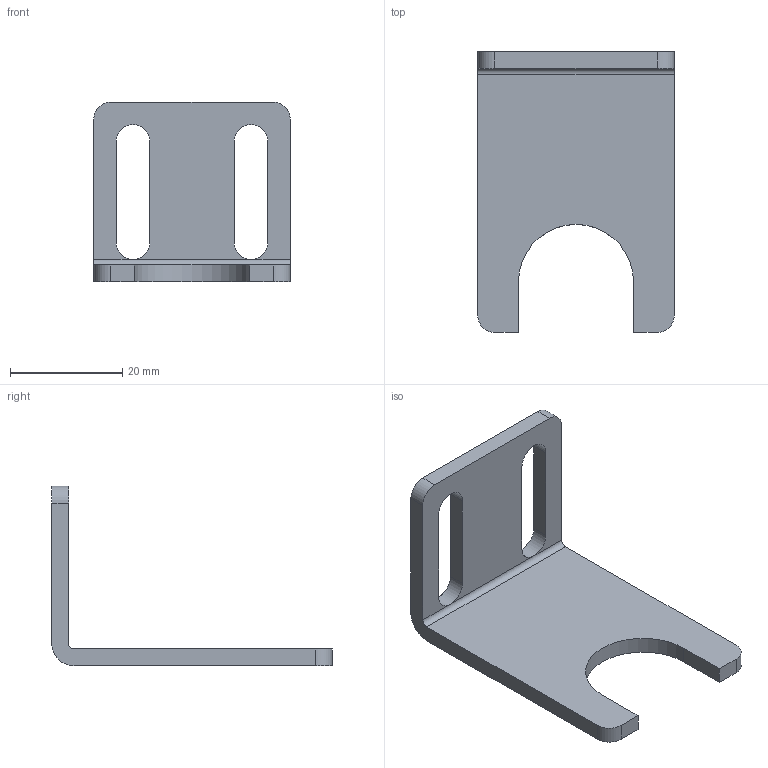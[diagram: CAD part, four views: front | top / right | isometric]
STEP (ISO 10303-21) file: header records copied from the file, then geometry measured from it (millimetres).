
FILE_DESCRIPTION((''),'2;1');
FILE_NAME('K:\ZEICHNG\webgrafik.intern\step\Air-Techniques\WH.M 20.stp','2013-06-17T14:11:31',('RJanz'),(''),'Autodesk Inventor 2013','Autodesk Inventor 2013','');
FILE_SCHEMA(('CONFIG_CONTROL_DESIGN'));
Length unit declared in the file: millimetre
Products named in the file (1): 10000729
Bounding box: 35 x 50 x 32 mm (x, y, z)
Volume: 6292.9 mm3; surface area: 5275.6 mm2
Topology: 1 solids, 1 shells, 26 faces, 80 edges, 52 vertices
Faces by surface type: plane 15, cylinder 11
Entity records: 932 total; most frequent: DIRECTION 160, ORIENTED_EDGE 160, CARTESIAN_POINT 159, EDGE_CURVE 80, VECTOR 54, LINE 54, AXIS2_PLACEMENT_3D 53, VERTEX_POINT 52
